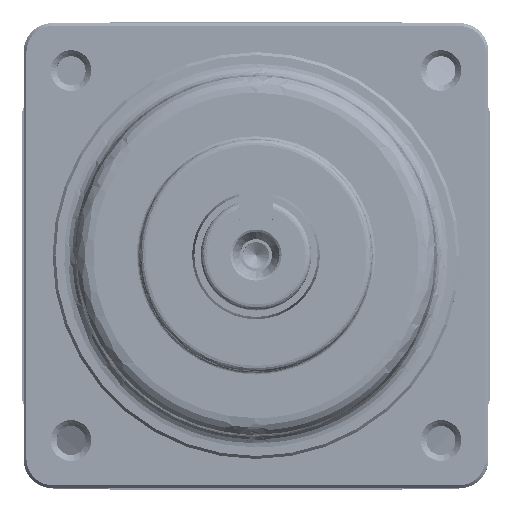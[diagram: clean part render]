
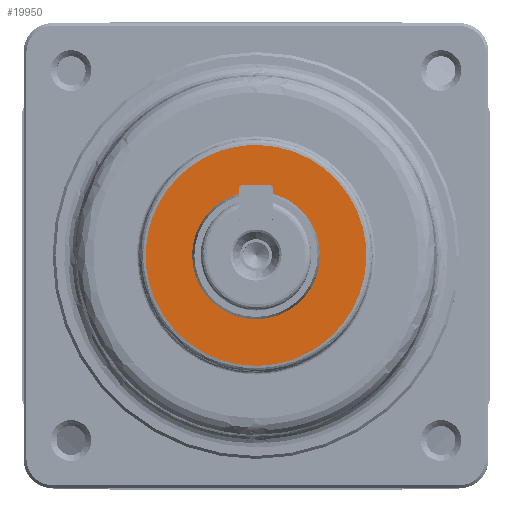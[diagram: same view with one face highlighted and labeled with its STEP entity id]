
A CAD part, top view. The second image highlights one B-rep face of the part: STEP entity #19950.
In plain terms, the highlighted planar face has unit normal (0, 0, 1).
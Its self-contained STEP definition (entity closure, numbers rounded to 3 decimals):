
#352 = CARTESIAN_POINT ( 'NONE',  ( 0.116, 19., 17. ) ) ;
#514 = CARTESIAN_POINT ( 'NONE',  ( 37.655, -19., 17. ) ) ;
#787 = CARTESIAN_POINT ( 'NONE',  ( 0., 19., 17. ) ) ;
#2403 =( BOUNDED_CURVE ( )  B_SPLINE_CURVE ( 3, ( #13153, #13261, #514, #2653 ),
 .UNSPECIFIED., .F., .T. ) 
 B_SPLINE_CURVE_WITH_KNOTS ( ( 4, 4 ),
 ( 0.003, 1. ),
 .UNSPECIFIED. ) 
 CURVE ( )  GEOMETRIC_REPRESENTATION_ITEM ( )  RATIONAL_B_SPLINE_CURVE ( ( 1., 0.336, 0.336, 1. ) ) 
 REPRESENTATION_ITEM ( '' )  );
#2653 = CARTESIAN_POINT ( 'NONE',  ( 0., -19., 17. ) ) ;
#2772 = ORIENTED_EDGE ( 'NONE', *, *, #12231, .F. ) ;
#3236 = CARTESIAN_POINT ( 'NONE',  ( -0.174, -18.999, 17. ) ) ;
#3541 = CARTESIAN_POINT ( 'NONE',  ( -37.655, 19., 17. ) ) ;
#6560 = VERTEX_POINT ( 'NONE', #787 ) ;
#7574 = EDGE_LOOP ( 'NONE', ( #22613, #2772, #24859, #21235 ) ) ;
#7667 = CARTESIAN_POINT ( 'NONE',  ( 0., 19., 17. ) ) ;
#8541 = VERTEX_POINT ( 'NONE', #25674 ) ;
#9453 =( BOUNDED_CURVE ( )  B_SPLINE_CURVE ( 3, ( #26704, #9857, #17988, #3236 ),
 .UNSPECIFIED., .F., .F. ) 
 B_SPLINE_CURVE_WITH_KNOTS ( ( 4, 4 ),
 ( 0., 0.003 ),
 .UNSPECIFIED. ) 
 CURVE ( )  GEOMETRIC_REPRESENTATION_ITEM ( )  RATIONAL_B_SPLINE_CURVE ( ( 1., 1., 1., 1. ) ) 
 REPRESENTATION_ITEM ( '' )  );
#9857 = CARTESIAN_POINT ( 'NONE',  ( -0.058, -19., 17. ) ) ;
#10650 = VERTEX_POINT ( 'NONE', #15170 ) ;
#10973 = CARTESIAN_POINT ( 'NONE',  ( 0., 19., 17. ) ) ;
#12231 = EDGE_CURVE ( 'NONE', #10650, #6560, #20094, .T. ) ;
#13102 = CARTESIAN_POINT ( 'NONE',  ( 0.058, 19., 17. ) ) ;
#13153 = CARTESIAN_POINT ( 'NONE',  ( 0.174, 18.999, 17. ) ) ;
#13261 = CARTESIAN_POINT ( 'NONE',  ( 37.827, 18.655, 17. ) ) ;
#13737 = EDGE_CURVE ( 'NONE', #8541, #10650, #9453, .T. ) ;
#13772 = CARTESIAN_POINT ( 'NONE',  ( -0.174, -18.999, 17. ) ) ;
#15005 = CARTESIAN_POINT ( 'NONE',  ( 0., 0., 17. ) ) ;
#15170 = CARTESIAN_POINT ( 'NONE',  ( -0.174, -18.999, 17. ) ) ;
#16062 = CARTESIAN_POINT ( 'NONE',  ( -37.827, -18.655, 17. ) ) ;
#17021 = PLANE ( 'NONE',  #20062 ) ;
#17988 = CARTESIAN_POINT ( 'NONE',  ( -0.116, -19., 17. ) ) ;
#19452 = FACE_OUTER_BOUND ( 'NONE', #7574, .T. ) ;
#19950 = ADVANCED_FACE ( 'NONE', ( #19452 ), #17021, .T. ) ;
#20062 = AXIS2_PLACEMENT_3D ( 'NONE', #15005, #23532, #25649 ) ;
#20094 =( BOUNDED_CURVE ( )  B_SPLINE_CURVE ( 3, ( #13772, #16062, #3541, #7667 ),
 .UNSPECIFIED., .F., .F. ) 
 B_SPLINE_CURVE_WITH_KNOTS ( ( 4, 4 ),
 ( 0.003, 1. ),
 .UNSPECIFIED. ) 
 CURVE ( )  GEOMETRIC_REPRESENTATION_ITEM ( )  RATIONAL_B_SPLINE_CURVE ( ( 1., 0.336, 0.336, 1. ) ) 
 REPRESENTATION_ITEM ( '' )  );
#21235 = ORIENTED_EDGE ( 'NONE', *, *, #21695, .F. ) ;
#21695 = EDGE_CURVE ( 'NONE', #23824, #8541, #2403, .T. ) ;
#21809 = CARTESIAN_POINT ( 'NONE',  ( 0.174, 18.999, 17. ) ) ;
#22536 = CARTESIAN_POINT ( 'NONE',  ( 0.174, 18.999, 17. ) ) ;
#22613 = ORIENTED_EDGE ( 'NONE', *, *, #22645, .F. ) ;
#22645 = EDGE_CURVE ( 'NONE', #6560, #23824, #26217, .T. ) ;
#23532 = DIRECTION ( 'NONE',  ( 0., 0., 1. ) ) ;
#23824 = VERTEX_POINT ( 'NONE', #22536 ) ;
#24859 = ORIENTED_EDGE ( 'NONE', *, *, #13737, .F. ) ;
#25649 = DIRECTION ( 'NONE',  ( 1., 0., 0. ) ) ;
#25674 = CARTESIAN_POINT ( 'NONE',  ( 0., -19., 17. ) ) ;
#26217 =( BOUNDED_CURVE ( )  B_SPLINE_CURVE ( 3, ( #10973, #13102, #352, #21809 ),
 .UNSPECIFIED., .F., .T. ) 
 B_SPLINE_CURVE_WITH_KNOTS ( ( 4, 4 ),
 ( 0., 0.003 ),
 .UNSPECIFIED. ) 
 CURVE ( )  GEOMETRIC_REPRESENTATION_ITEM ( )  RATIONAL_B_SPLINE_CURVE ( ( 1., 1., 1., 1. ) ) 
 REPRESENTATION_ITEM ( '' )  );
#26704 = CARTESIAN_POINT ( 'NONE',  ( 0., -19., 17. ) ) ;
